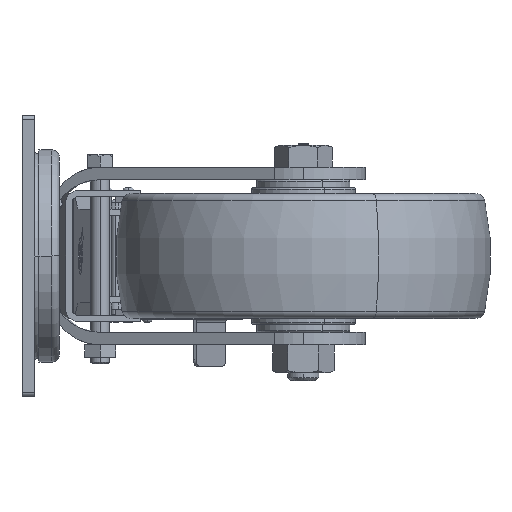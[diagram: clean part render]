
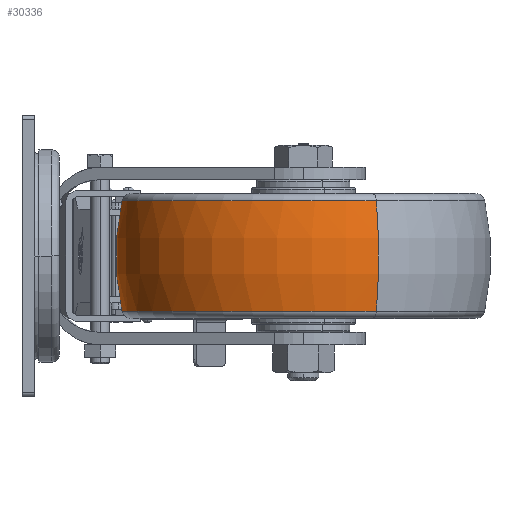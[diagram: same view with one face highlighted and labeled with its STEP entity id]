
A CAD part, left-side view. The second image highlights one B-rep face of the part: STEP entity #30336.
In plain terms, the highlighted toroidal (fillet/blend) face has major radius 30.169 mm and minor radius 106.369 mm.
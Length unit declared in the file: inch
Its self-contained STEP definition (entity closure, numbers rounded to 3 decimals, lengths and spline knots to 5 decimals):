
#149 = AXIS2_PLACEMENT_3D ( 'NONE', #20963, #24217, #17824 ) ;
#286 = DIRECTION ( 'NONE',  ( 0., 0., 1. ) ) ;
#1253 = DIRECTION ( 'NONE',  ( -0.916, -0.402, 0. ) ) ;
#1620 = VERTEX_POINT ( 'NONE', #26928 ) ;
#3847 = DIRECTION ( 'NONE',  ( 0.916, 0.402, 0. ) ) ;
#3984 = AXIS2_PLACEMENT_3D ( 'NONE', #39786, #286, #3847 ) ;
#4929 = DIRECTION ( 'NONE',  ( -0.916, -0.402, 0. ) ) ;
#5288 = CARTESIAN_POINT ( 'NONE',  ( 2.66092, 1.16843, -0.88158 ) ) ;
#5475 = EDGE_LOOP ( 'NONE', ( #34088, #24259, #40544, #28701 ) ) ;
#6828 = CARTESIAN_POINT ( 'NONE',  ( 0., 0., -0.88158 ) ) ;
#7608 = TOROIDAL_SURFACE ( 'NONE', #3984, -1.18776, 4.18776 ) ;
#9621 = FACE_OUTER_BOUND ( 'NONE', #5475, .T. ) ;
#11300 = DIRECTION ( 'NONE',  ( -0.402, 0.916, 0. ) ) ;
#12958 = CARTESIAN_POINT ( 'NONE',  ( -2.66092, -1.16843, 0.88158 ) ) ;
#13351 = DIRECTION ( 'NONE',  ( 0.916, 0.402, 0. ) ) ;
#13555 = CARTESIAN_POINT ( 'NONE',  ( 2.66092, 1.16843, 0.88158 ) ) ;
#14096 = EDGE_CURVE ( 'NONE', #23412, #34344, #19183, .T. ) ;
#14204 = AXIS2_PLACEMENT_3D ( 'NONE', #27944, #17855, #4929 ) ;
#15384 = CIRCLE ( 'NONE', #31367, 4.18776 ) ;
#17824 = DIRECTION ( 'NONE',  ( 0.916, 0.402, 0. ) ) ;
#17855 = DIRECTION ( 'NONE',  ( 0., 0., -1. ) ) ;
#19183 = CIRCLE ( 'NONE', #14204, 2.90616 ) ;
#20963 = CARTESIAN_POINT ( 'NONE',  ( -1.08753, -0.47754, 0. ) ) ;
#21985 = EDGE_CURVE ( 'NONE', #39775, #34344, #29545, .T. ) ;
#23412 = VERTEX_POINT ( 'NONE', #12958 ) ;
#24217 = DIRECTION ( 'NONE',  ( 0.402, -0.916, 0. ) ) ;
#24259 = ORIENTED_EDGE ( 'NONE', *, *, #32395, .T. ) ;
#26928 = CARTESIAN_POINT ( 'NONE',  ( -2.66092, -1.16843, -0.88158 ) ) ;
#27944 = CARTESIAN_POINT ( 'NONE',  ( 0., 0., 0.88158 ) ) ;
#28701 = ORIENTED_EDGE ( 'NONE', *, *, #21985, .F. ) ;
#29545 = CIRCLE ( 'NONE', #149, 4.18776 ) ;
#29609 = DIRECTION ( 'NONE',  ( 0., 0., 1. ) ) ;
#30336 = ADVANCED_FACE ( 'NONE', ( #9621 ), #7608, .T. ) ;
#30565 = CARTESIAN_POINT ( 'NONE',  ( 1.08753, 0.47754, 0. ) ) ;
#31367 = AXIS2_PLACEMENT_3D ( 'NONE', #30565, #11300, #1253 ) ;
#32395 = EDGE_CURVE ( 'NONE', #1620, #23412, #15384, .T. ) ;
#34088 = ORIENTED_EDGE ( 'NONE', *, *, #37852, .T. ) ;
#34344 = VERTEX_POINT ( 'NONE', #13555 ) ;
#35784 = CIRCLE ( 'NONE', #41315, 2.90616 ) ;
#37852 = EDGE_CURVE ( 'NONE', #39775, #1620, #35784, .T. ) ;
#39775 = VERTEX_POINT ( 'NONE', #5288 ) ;
#39786 = CARTESIAN_POINT ( 'NONE',  ( 0., 0., 0. ) ) ;
#40544 = ORIENTED_EDGE ( 'NONE', *, *, #14096, .T. ) ;
#41315 = AXIS2_PLACEMENT_3D ( 'NONE', #6828, #29609, #13351 ) ;
